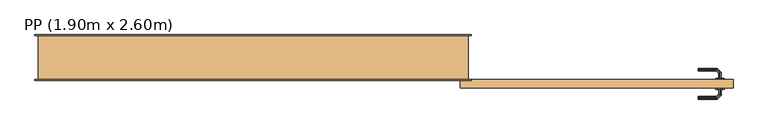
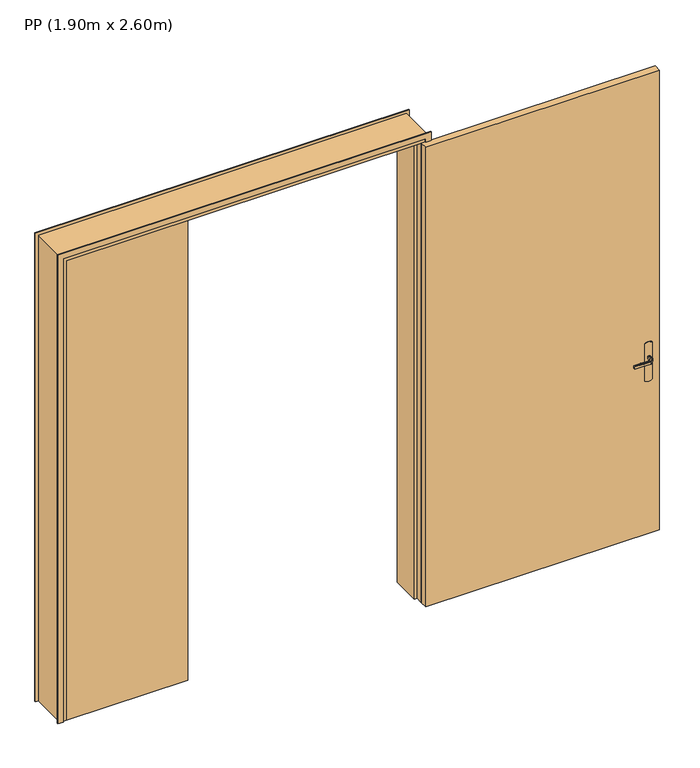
"""IFC4 building model written with IfcOpenShell, lengths in millimetres: door geometry, PP (1.90m x 2.60m)."""

from ifc_helpers import new_model, si_unit, frame, origin, origin_with_axes, place, context, project, spatial, polyline, outline, extrude, faceted_brep, source, transform, mapped, element, save


def pp_1_90m_x_2_60m_9d1d30db(model_context):
    return source(origin(), model_context, "Body", "SolidModel", [
        extrude(outline(polyline([(0.0, 2055.0), (2650.0, 2055.0), (2650.0, 55.0), (0.0, 55.0), (0.0, 85.0), (2620.0, 85.0), (2620.0, 2025.0), (0.0, 2025.0), (0.0, 2055.0)])), frame((0.0, 200.0, 0.0), z_axis=(0.0, 1.0, 0.0), x_axis=(0.0, 0.0, 1.0)), (0.0, 0.0, 1.0), 5.0),
        extrude(outline(polyline([(1083.9960169, 3184.6472382), (1080.0, 3175.0), (870.0, 3175.0), (866.0039831, 3184.6472382), (864.6410162, 3195.0), (866.0039831, 3205.3527618), (870.0, 3215.0), (1080.0, 3215.0), (1083.9960169, 3205.3527618), (1085.3589838, 3195.0), (1083.9960169, 3184.6472382)])), frame((0.0, 0.0, 0.0), z_axis=(0.0, 1.0, 0.0), x_axis=(0.0, 0.0, 1.0)), (0.0, 0.0, 1.0), 5.0),
        faceted_brep([(2040.0, 0.0, 0.0), (2005.0, 0.0, 0.0), (2005.0, 40.0, 0.0), (1990.0, 40.0, 0.0), (1990.0, 200.0, 0.0), (2040.0, 200.0, 0.0), (2040.0, 200.0, 2635.0), (2040.0, 0.0, 2635.0), (1990.0, 200.0, 2585.0), (120.0, 200.0, 2585.0), (120.0, 200.0, 0.0), (70.0, 200.0, 0.0), (70.0, 200.0, 2635.0), (1990.0, 40.0, 2585.0), (2005.0, 40.0, 2600.0), (105.0, 40.0, 2600.0), (105.0, 40.0, 0.0), (120.0, 40.0, 0.0), (120.0, 40.0, 2585.0), (2005.0, 0.0, 2600.0), (70.0, 0.0, 2635.0), (70.0, 0.0, 0.0), (105.0, 0.0, 0.0), (105.0, 0.0, 2600.0)], [[[0, 1, 2, 3, 4, 5]], [[5, 6, 7, 0]], [[4, 8, 9, 10, 11, 12, 6, 5]], [[3, 13, 8, 4]], [[2, 14, 15, 16, 17, 18, 13, 3]], [[1, 19, 14, 2]], [[0, 7, 20, 21, 22, 23, 19, 1]], [[12, 11, 21, 20]], [[21, 11, 10, 17, 16, 22]], [[18, 17, 10, 9]], [[23, 22, 16, 15]], [[6, 12, 20, 7]], [[13, 18, 9, 8]], [[19, 23, 15, 14]]]),
        faceted_brep([(3197.0252987, 5.0, 1007.7804408), (3192.9747013, 5.0, 1007.7804408), (3189.0, 5.0, 1007.0), (3189.0, 5.0, 993.0), (3192.9747013, 5.0, 992.2195592), (3197.0252987, 5.0, 992.2195592), (3201.0, 5.0, 993.0), (3201.0, 5.0, 1007.0), (3201.0, 32.6509507, 1007.0), (3197.0252987, 31.0045755, 1007.7804408), (3180.9764148, 47.0534593, 1007.7804408), (3179.2986025, 43.002862, 1007.7804408), (3192.9747013, 29.3267632, 1007.7804408), (3189.0, 27.680388, 1007.0), (3189.0, 27.680388, 993.0), (3192.9747013, 29.3267632, 992.2195592), (3179.2986025, 43.002862, 992.2195592), (3180.9764148, 47.0534593, 992.2195592), (3197.0252987, 31.0045755, 992.2195592), (3201.0, 32.6509507, 993.0), (3182.62279, 51.0281607, 1007.0), (3177.6522273, 39.0281607, 1007.0), (3177.6522273, 39.0281607, 993.0), (3182.62279, 51.0281607, 993.0), (3094.9813594, 51.0281607, 993.0), (3094.9813594, 47.0534593, 992.2195592), (3094.9813594, 43.002862, 992.2195592), (3094.9813594, 39.0281607, 993.0), (3094.9813594, 39.0281607, 1007.0), (3094.9813594, 43.002862, 1007.7804408), (3094.9813594, 47.0534593, 1007.7804408), (3094.9813594, 51.0281607, 1007.0), (3142.6923028, 51.0281607, 1007.0), (3137.1399809, 45.0281607, 1007.8786868), (3136.3167933, 39.0281607, 1007.0), (3136.3167933, 39.0281607, 993.0), (3137.1399811, 45.0281608, 992.1213132), (3142.6922998, 51.0281607, 993.0)], [[[0, 1, 2, 3, 4, 5, 6, 7]], [[8, 9, 0, 7]], [[9, 10, 11, 12, 1, 0]], [[12, 13, 2, 1]], [[3, 2, 13, 14]], [[14, 15, 4, 3]], [[15, 16, 17, 18, 5, 4]], [[18, 19, 6, 5]], [[7, 6, 19, 8]], [[20, 10, 9, 8]], [[11, 21, 13, 12]], [[14, 13, 21, 22]], [[22, 16, 15, 14]], [[17, 23, 19, 18]], [[8, 19, 23, 20]], [[24, 25, 26, 27, 28, 29, 30, 31]], [[32, 30, 33]], [[31, 30, 32]], [[10, 20, 32]], [[33, 34, 11]], [[21, 11, 34]], [[34, 29, 28]], [[30, 29, 33]], [[29, 34, 33]], [[10, 32, 33]], [[10, 33, 11]], [[22, 21, 34, 28, 27, 35]], [[35, 26, 36]], [[37, 36, 25]], [[22, 35, 16]], [[35, 27, 26]], [[24, 37, 25]], [[23, 17, 37]], [[37, 17, 36]], [[17, 16, 36]], [[16, 35, 36]], [[25, 36, 26]], [[20, 23, 37, 24, 31, 32]]]),
        extrude(outline(polyline([(105.0, 0.0), (105.0, 40.0), (755.0, 40.0), (755.0, 0.0), (105.0, 0.0)])), origin_with_axes(), (0.0, 0.0, 1.0), 2600.0),
        faceted_brep([(3197.0252987, -45.0, 1007.7804408), (3201.0, -45.0, 1007.0), (3201.0, -45.0, 993.0), (3197.0252987, -45.0, 992.2195592), (3192.9747013, -45.0, 992.2195592), (3189.0, -45.0, 993.0), (3189.0, -45.0, 1007.0), (3192.9747013, -45.0, 1007.7804408), (3189.0, -67.4852045, 993.0), (3189.0, -67.4852045, 1007.0), (3192.9747013, -69.1315797, 1007.7804408), (3179.1610938, -82.9451872, 1007.7804408), (3180.8389062, -86.9957845, 1007.7804408), (3197.0252987, -70.8093921, 1007.7804408), (3201.0, -72.4557673, 1007.0), (3201.0, -72.4557673, 993.0), (3197.0252987, -70.8093921, 992.2195592), (3180.8389062, -86.9957845, 992.2195592), (3179.1610938, -82.9451872, 992.2195592), (3192.9747013, -69.1315797, 992.2195592), (3177.5147186, -78.9704859, 993.0), (3177.5147186, -78.9704859, 1007.0), (3182.4852814, -90.9704859, 1007.0), (3182.4852814, -90.9704859, 993.0), (3094.9542163, -78.9704859, 993.0), (3094.9542163, -82.9451872, 992.2195592), (3094.9542163, -86.9957845, 992.2195592), (3094.9542163, -90.9704859, 993.0), (3094.9542163, -90.9704859, 1007.0), (3094.9542163, -86.9957845, 1007.7804408), (3094.9542163, -82.9451872, 1007.7804408), (3094.9542163, -78.9704859, 1007.0), (3136.2344794, -78.9704859, 993.0), (3136.2344675, -78.9704859, 1007.0), (3137.0576551, -84.9704859, 1007.8786868), (3142.5547942, -90.9704859, 1007.0), (3142.5547957, -90.9704859, 993.0), (3137.0576549, -84.9704858, 992.1213132)], [[[0, 1, 2, 3, 4, 5, 6, 7]], [[6, 5, 8, 9]], [[9, 10, 7, 6]], [[10, 11, 12, 13, 0, 7]], [[13, 14, 1, 0]], [[2, 1, 14, 15]], [[15, 16, 3, 2]], [[16, 17, 18, 19, 4, 3]], [[19, 8, 5, 4]], [[9, 8, 20, 21]], [[21, 11, 10, 9]], [[12, 22, 14, 13]], [[15, 14, 22, 23]], [[23, 17, 16, 15]], [[18, 20, 8, 19]], [[24, 25, 26, 27, 28, 29, 30, 31]], [[21, 20, 32, 24, 31, 33]], [[33, 30, 34]], [[35, 34, 29]], [[21, 33, 11]], [[33, 31, 30]], [[28, 35, 29]], [[22, 12, 35]], [[35, 12, 34]], [[12, 11, 34]], [[11, 33, 34]], [[29, 34, 30]], [[22, 35, 28, 27, 36, 23]], [[36, 26, 37]], [[27, 26, 36]], [[17, 23, 36]], [[37, 32, 18]], [[20, 18, 32]], [[32, 25, 24]], [[26, 25, 37]], [[25, 32, 37]], [[17, 36, 37]], [[17, 37, 18]]]),
        extrude(outline(polyline([(3255.0, -40.0), (2005.0, -40.0), (2005.0, 0.0), (3255.0, 0.0), (3255.0, -40.0)])), origin_with_axes(), (0.0, 0.0, 1.0), 2600.0),
        extrude(outline(polyline([(0.0, 2055.0), (2650.0, 2055.0), (2650.0, 55.0), (0.0, 55.0), (0.0, 85.0), (2620.0, 85.0), (2620.0, 2025.0), (0.0, 2025.0), (0.0, 2055.0)])), frame((0.0, -5.0, 0.0), z_axis=(0.0, 1.0, 0.0), x_axis=(0.0, 0.0, 1.0)), (0.0, 0.0, 1.0), 5.0),
        extrude(outline(polyline([(1083.9960169, 3184.6472382), (1080.0, 3175.0), (870.0, 3175.0), (866.0039831, 3184.6472382), (864.6410162, 3195.0), (866.0039831, 3205.3527618), (870.0, 3215.0), (1080.0, 3215.0), (1083.9960169, 3205.3527618), (1085.3589838, 3195.0), (1083.9960169, 3184.6472382)])), frame((0.0, -45.0, 0.0), z_axis=(0.0, 1.0, 0.0), x_axis=(0.0, 0.0, 1.0)), (0.0, 0.0, 1.0), 5.0),
    ])


if __name__ == "__main__":
    model = new_model("IFC4")
    model_context = context("Model", 3, world=origin())
    ifc_project = project(units=[si_unit("LENGTHUNIT", "METRE", prefix="MILLI")], contexts=[model_context])
    site = spatial("IfcSite", under=ifc_project)
    building = spatial("IfcBuilding", under=site)
    placement = place(None, origin())
    pp_1_90m_x_2_60m_shape = pp_1_90m_x_2_60m_9d1d30db(model_context)
    element("IfcDoor", 1, ObjectType="PP (1.90m x 2.60m)", at=placement, inside=building, context=model_context, shape_type="MappedRepresentation", body=[
        mapped(pp_1_90m_x_2_60m_shape, transform((0.0, 0.0, 0.0), x_axis=(1.0, 0.0, 0.0), y_axis=(0.0, 1.0, 0.0), z_axis=(0.0, 0.0, 1.0))),
    ])
    save(model, "model.ifc")
